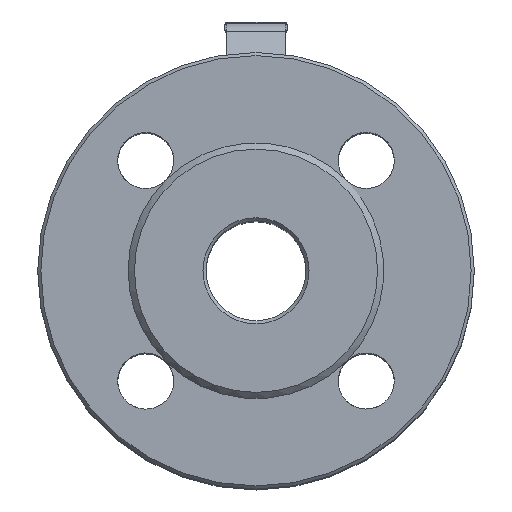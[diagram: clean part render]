
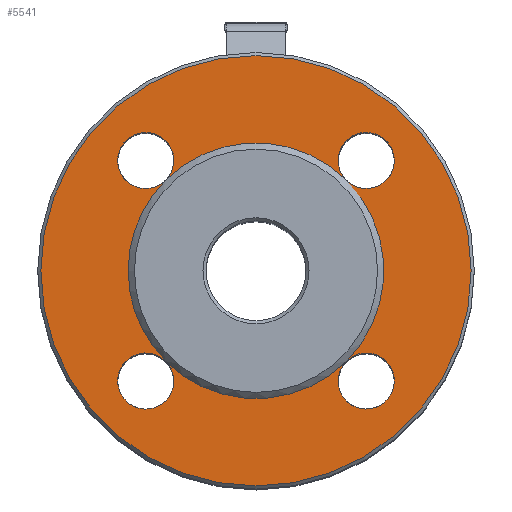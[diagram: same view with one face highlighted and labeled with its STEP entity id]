
A CAD part, top view. The second image highlights one B-rep face of the part: STEP entity #5541.
In plain terms, the highlighted planar face has unit normal (0, 0, 1).
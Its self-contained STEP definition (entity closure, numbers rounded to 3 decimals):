
#5541=ADVANCED_FACE('',(#17785,#17787,#17789,#17791,#17793,#17795),#17797,.F.);
#17785=FACE_BOUND('',#17786,.T.);
#17786=EDGE_LOOP('',(#27086));
#17787=FACE_BOUND('',#17788,.T.);
#17788=EDGE_LOOP('',(#27087));
#17789=FACE_BOUND('',#17790,.T.);
#17790=EDGE_LOOP('',(#27088,#27089));
#17791=FACE_BOUND('',#17792,.T.);
#17792=EDGE_LOOP('',(#27090,#27091,#27092,#27093));
#17793=FACE_BOUND('',#17794,.T.);
#17794=EDGE_LOOP('',(#27094,#27095));
#17795=FACE_BOUND('',#17796,.T.);
#17796=EDGE_LOOP('',(#27096,#27097));
#17797=PLANE('',#17798);
#17798=AXIS2_PLACEMENT_3D('',#17799,#17800,#17801);
#17799=CARTESIAN_POINT('',(0.,0.,88.));
#17800=DIRECTION('',(0.,0.,-1.));
#17801=DIRECTION('',(-1.,0.,0.));
#27086=ORIENTED_EDGE('',*,*,#31051,.F.);
#27087=ORIENTED_EDGE('',*,*,#30951,.F.);
#27088=ORIENTED_EDGE('',*,*,#30953,.F.);
#27089=ORIENTED_EDGE('',*,*,#30952,.F.);
#27090=ORIENTED_EDGE('',*,*,#31052,.F.);
#27091=ORIENTED_EDGE('',*,*,#31053,.F.);
#27092=ORIENTED_EDGE('',*,*,#31054,.F.);
#27093=ORIENTED_EDGE('',*,*,#31055,.F.);
#27094=ORIENTED_EDGE('',*,*,#30955,.F.);
#27095=ORIENTED_EDGE('',*,*,#30954,.F.);
#27096=ORIENTED_EDGE('',*,*,#30957,.F.);
#27097=ORIENTED_EDGE('',*,*,#30956,.F.);
#30951=EDGE_CURVE('',#37127,#37127,#37128,.T.);
#30952=EDGE_CURVE('',#37129,#37130,#37131,.T.);
#30953=EDGE_CURVE('',#37130,#37129,#37132,.T.);
#30954=EDGE_CURVE('',#37133,#37134,#37135,.T.);
#30955=EDGE_CURVE('',#37134,#37133,#37136,.T.);
#30956=EDGE_CURVE('',#37137,#37138,#37139,.T.);
#30957=EDGE_CURVE('',#37138,#37137,#37140,.T.);
#31051=EDGE_CURVE('',#37276,#37276,#37277,.T.);
#31052=EDGE_CURVE('',#37137,#37133,#37278,.T.);
#31053=EDGE_CURVE('',#37279,#37137,#37280,.T.);
#31054=EDGE_CURVE('',#37129,#37279,#37281,.T.);
#31055=EDGE_CURVE('',#37133,#37129,#37282,.T.);
#37127=VERTEX_POINT('',#60241);
#37128=CIRCLE('',#60242,9.);
#37129=VERTEX_POINT('',#60246);
#37130=VERTEX_POINT('',#60247);
#37131=CIRCLE('',#60248,9.);
#37132=CIRCLE('',#60252,9.);
#37133=VERTEX_POINT('',#60256);
#37134=VERTEX_POINT('',#60257);
#37135=CIRCLE('',#60258,9.);
#37136=CIRCLE('',#60262,9.);
#37137=VERTEX_POINT('',#60266);
#37138=VERTEX_POINT('',#60267);
#37139=CIRCLE('',#60268,9.);
#37140=CIRCLE('',#60272,9.);
#37276=VERTEX_POINT('',#61398);
#37277=CIRCLE('',#61399,69.);
#37278=CIRCLE('',#61403,41.);
#37279=VERTEX_POINT('',#61407);
#37280=CIRCLE('',#61408,41.);
#37281=CIRCLE('',#61412,41.);
#37282=CIRCLE('',#61416,41.);
#60241=CARTESIAN_POINT('',(-44.355,35.355,88.));
#60242=AXIS2_PLACEMENT_3D('',#60243,#60244,#60245);
#60243=CARTESIAN_POINT('',(-35.355,35.355,88.));
#60244=DIRECTION('',(0.,0.,1.));
#60245=DIRECTION('',(0.707,-0.707,0.));
#60246=CARTESIAN_POINT('',(28.991,28.991,88.));
#60247=CARTESIAN_POINT('',(26.355,35.355,88.));
#60248=AXIS2_PLACEMENT_3D('',#60249,#60250,#60251);
#60249=CARTESIAN_POINT('',(35.355,35.355,88.));
#60250=DIRECTION('',(0.,0.,1.));
#60251=DIRECTION('',(-0.707,-0.707,0.));
#60252=AXIS2_PLACEMENT_3D('',#60253,#60254,#60255);
#60253=CARTESIAN_POINT('',(35.355,35.355,88.));
#60254=DIRECTION('',(0.,0.,1.));
#60255=DIRECTION('',(-1.,0.,0.));
#60256=CARTESIAN_POINT('',(28.991,-28.991,88.));
#60257=CARTESIAN_POINT('',(26.355,-35.355,88.));
#60258=AXIS2_PLACEMENT_3D('',#60259,#60260,#60261);
#60259=CARTESIAN_POINT('',(35.355,-35.355,88.));
#60260=DIRECTION('',(0.,0.,1.));
#60261=DIRECTION('',(-0.707,0.707,0.));
#60262=AXIS2_PLACEMENT_3D('',#60263,#60264,#60265);
#60263=CARTESIAN_POINT('',(35.355,-35.355,88.));
#60264=DIRECTION('',(0.,0.,1.));
#60265=DIRECTION('',(-1.,0.,0.));
#60266=CARTESIAN_POINT('',(-28.991,-28.991,88.));
#60267=CARTESIAN_POINT('',(-44.355,-35.355,88.));
#60268=AXIS2_PLACEMENT_3D('',#60269,#60270,#60271);
#60269=CARTESIAN_POINT('',(-35.355,-35.355,88.));
#60270=DIRECTION('',(0.,0.,1.));
#60271=DIRECTION('',(0.707,0.707,0.));
#60272=AXIS2_PLACEMENT_3D('',#60273,#60274,#60275);
#60273=CARTESIAN_POINT('',(-35.355,-35.355,88.));
#60274=DIRECTION('',(0.,0.,1.));
#60275=DIRECTION('',(-1.,0.,0.));
#61398=CARTESIAN_POINT('',(-69.,0.,88.));
#61399=AXIS2_PLACEMENT_3D('',#61400,#61401,#61402);
#61400=CARTESIAN_POINT('',(0.,0.,88.));
#61401=DIRECTION('',(0.,0.,-1.));
#61402=DIRECTION('',(-1.,0.,0.));
#61403=AXIS2_PLACEMENT_3D('',#61404,#61405,#61406);
#61404=CARTESIAN_POINT('',(0.,0.,88.));
#61405=DIRECTION('',(0.,0.,1.));
#61406=DIRECTION('',(-0.707,-0.707,0.));
#61407=CARTESIAN_POINT('',(-41.,0.,88.));
#61408=AXIS2_PLACEMENT_3D('',#61409,#61410,#61411);
#61409=CARTESIAN_POINT('',(0.,0.,88.));
#61410=DIRECTION('',(0.,0.,1.));
#61411=DIRECTION('',(-1.,0.,0.));
#61412=AXIS2_PLACEMENT_3D('',#61413,#61414,#61415);
#61413=CARTESIAN_POINT('',(0.,0.,88.));
#61414=DIRECTION('',(0.,0.,1.));
#61415=DIRECTION('',(0.707,0.707,0.));
#61416=AXIS2_PLACEMENT_3D('',#61417,#61418,#61419);
#61417=CARTESIAN_POINT('',(0.,0.,88.));
#61418=DIRECTION('',(0.,0.,1.));
#61419=DIRECTION('',(0.707,-0.707,0.));
